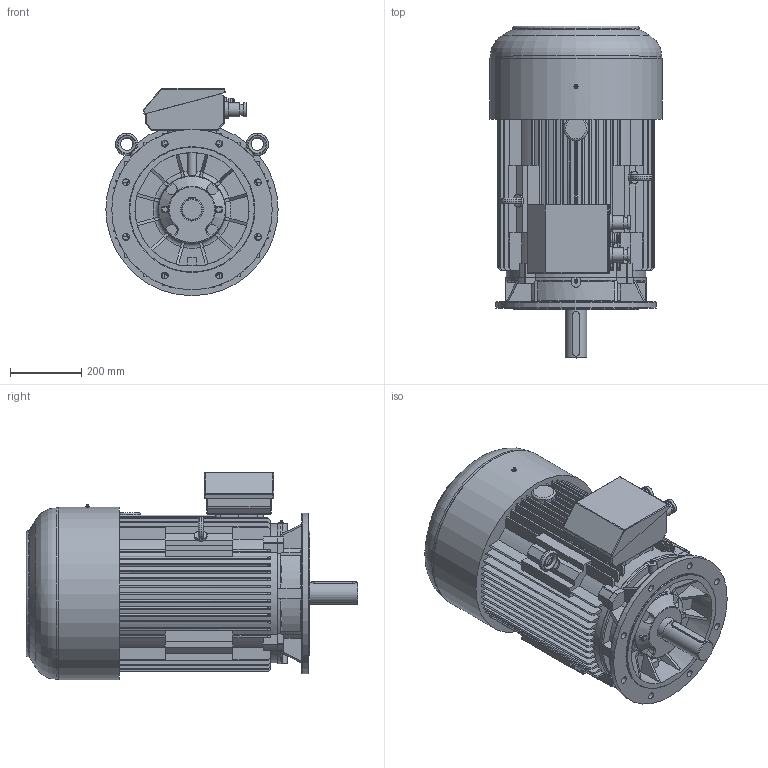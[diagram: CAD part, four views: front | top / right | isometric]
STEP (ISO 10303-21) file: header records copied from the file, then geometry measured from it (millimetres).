
FILE_DESCRIPTION(/* description */ ('Unknown'),/* implementation_level */ '2;1');
FILE_NAME(/* name */ '3SIEK225S4_8, M4_8',/* time_stamp */ '2021-04-12T13:23:34+02:00',/* author */ ('Unknown'),/* organization */ ('Unknown'),/* preprocessor_version */ 'ST-DEVELOPER v16.7',/* originating_system */ 'DEX',/* authorisation */ $);
FILE_SCHEMA (('AP242_MANAGED_MODEL_BASED_3D_ENGINEERING_MIM_LF { 1 0 10303 442 1 1 4 }','AUTOMOTIVE_DESIGN {1 0 10303 214 3 1 1}'));
Length unit declared in the file: millimetre
Products named in the file (1): 2SIEK 225_S_M4_6 silnik
Bounding box: 483 x 930.5 x 581.55 mm (x, y, z)
Volume: 115309355.2 mm3; surface area: 3079043.2 mm2
Topology: 1 solids, 4 shells, 866 faces, 2356 edges, 1528 vertices
Faces by surface type: plane 538, cylinder 240, torus 62, cone 16, sphere 6, bspline 4
Full cylindrical faces by diameter (mm): 1.6 x2, 5 x4, 10 x2, 16.891 x1, 19 x8, 24 x1, 26.969 x1, 30 x4, 30.249 x1, 31 x1, 35 x4, 40 x4, 47 x2, 60 x1, 64.5 x1, 188 x1, 190 x1, 349.991 x1, 449.991 x1, 480 x1, 483 x1
Entity records: 33598 total; most frequent: CARTESIAN_POINT 5699, DIRECTION 4555, ORIENTED_EDGE 4536, EDGE_CURVE 2268, AXIS2_PLACEMENT_3D 1606, VERTEX_POINT 1514, LINE 1343, VECTOR 1343
